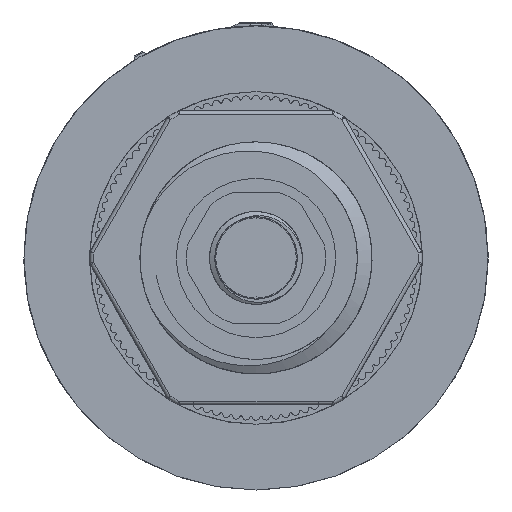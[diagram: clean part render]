
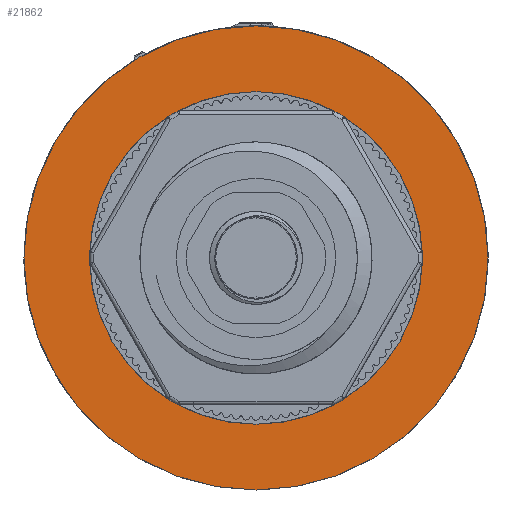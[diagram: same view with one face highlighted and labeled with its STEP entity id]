
A CAD part, front view. The second image highlights one B-rep face of the part: STEP entity #21862.
In plain terms, the highlighted planar face has unit normal (0, -1, 0).
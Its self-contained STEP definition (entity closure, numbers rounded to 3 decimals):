
#17 = FACE_BOUND ( 'NONE', #17021, .T. ) ;
#199 = CARTESIAN_POINT ( 'NONE',  ( 0., 50.3, 0. ) ) ;
#576 = VERTEX_POINT ( 'NONE', #15016 ) ;
#643 = VERTEX_POINT ( 'NONE', #19532 ) ;
#770 = DIRECTION ( 'NONE',  ( 0., 0., -1. ) ) ;
#1179 = EDGE_CURVE ( 'NONE', #576, #643, #24496, .T. ) ;
#2508 = DIRECTION ( 'NONE',  ( 0., 0., -1. ) ) ;
#3384 = ORIENTED_EDGE ( 'NONE', *, *, #24437, .T. ) ;
#3482 = AXIS2_PLACEMENT_3D ( 'NONE', #24460, #4399, #20058 ) ;
#4275 = AXIS2_PLACEMENT_3D ( 'NONE', #13272, #20297, #27009 ) ;
#4399 = DIRECTION ( 'NONE',  ( 0., 1., 0. ) ) ;
#4811 = CIRCLE ( 'NONE', #27727, 30. ) ;
#4824 = EDGE_CURVE ( 'NONE', #8112, #9229, #4811, .T. ) ;
#5380 = DIRECTION ( 'NONE',  ( 0., -1., 0. ) ) ;
#5440 = AXIS2_PLACEMENT_3D ( 'NONE', #20230, #13933, #2508 ) ;
#8112 = VERTEX_POINT ( 'NONE', #22612 ) ;
#9229 = VERTEX_POINT ( 'NONE', #22816 ) ;
#9809 = CARTESIAN_POINT ( 'NONE',  ( 0., 50.3, 0. ) ) ;
#10636 = EDGE_CURVE ( 'NONE', #643, #576, #12884, .T. ) ;
#10799 = ORIENTED_EDGE ( 'NONE', *, *, #1179, .F. ) ;
#11897 = AXIS2_PLACEMENT_3D ( 'NONE', #9809, #5380, #13354 ) ;
#12884 = CIRCLE ( 'NONE', #5440, 21.5 ) ;
#13272 = CARTESIAN_POINT ( 'NONE',  ( 0., 50.3, 0. ) ) ;
#13354 = DIRECTION ( 'NONE',  ( 0., 0., -1. ) ) ;
#13933 = DIRECTION ( 'NONE',  ( 0., -1., 0. ) ) ;
#15016 = CARTESIAN_POINT ( 'NONE',  ( 0., 50.3, -21.5 ) ) ;
#16431 = DIRECTION ( 'NONE',  ( 0., -1., 0. ) ) ;
#16914 = CIRCLE ( 'NONE', #4275, 30. ) ;
#17021 = EDGE_LOOP ( 'NONE', ( #18772, #10799 ) ) ;
#18168 = FACE_OUTER_BOUND ( 'NONE', #27316, .T. ) ;
#18772 = ORIENTED_EDGE ( 'NONE', *, *, #10636, .F. ) ;
#19532 = CARTESIAN_POINT ( 'NONE',  ( 0., 50.3, 21.5 ) ) ;
#20058 = DIRECTION ( 'NONE',  ( 0., 0., 1. ) ) ;
#20230 = CARTESIAN_POINT ( 'NONE',  ( 0., 50.3, 0. ) ) ;
#20297 = DIRECTION ( 'NONE',  ( 0., -1., 0. ) ) ;
#21862 = ADVANCED_FACE ( 'NONE', ( #17, #18168 ), #24899, .F. ) ;
#22612 = CARTESIAN_POINT ( 'NONE',  ( 0., 50.3, 30. ) ) ;
#22816 = CARTESIAN_POINT ( 'NONE',  ( 0., 50.3, -30. ) ) ;
#24437 = EDGE_CURVE ( 'NONE', #9229, #8112, #16914, .T. ) ;
#24460 = CARTESIAN_POINT ( 'NONE',  ( -15., 50.3, 0. ) ) ;
#24496 = CIRCLE ( 'NONE', #11897, 21.5 ) ;
#24899 = PLANE ( 'NONE',  #3482 ) ;
#26081 = ORIENTED_EDGE ( 'NONE', *, *, #4824, .T. ) ;
#27009 = DIRECTION ( 'NONE',  ( 0., 0., -1. ) ) ;
#27316 = EDGE_LOOP ( 'NONE', ( #3384, #26081 ) ) ;
#27727 = AXIS2_PLACEMENT_3D ( 'NONE', #199, #16431, #770 ) ;
